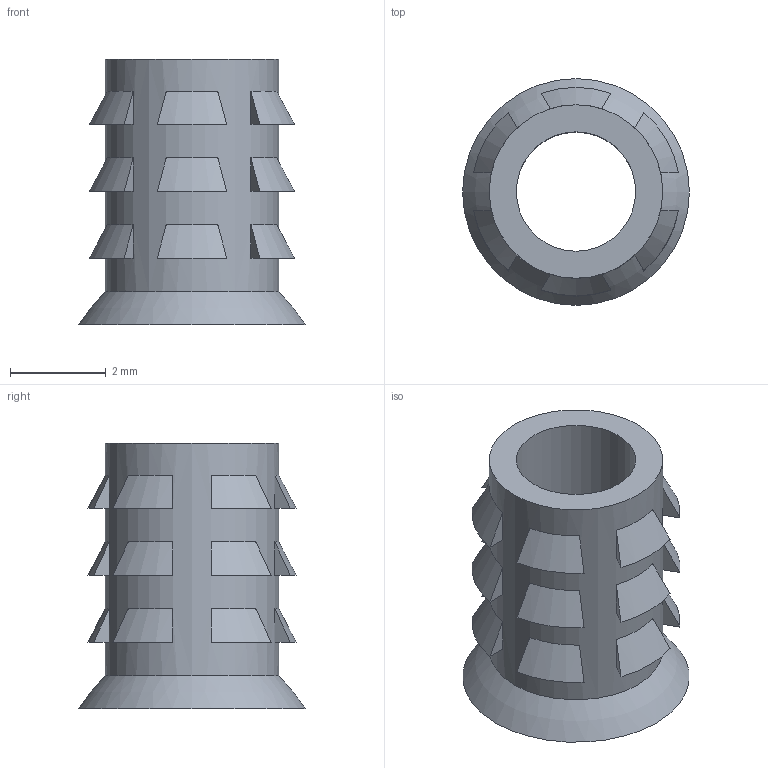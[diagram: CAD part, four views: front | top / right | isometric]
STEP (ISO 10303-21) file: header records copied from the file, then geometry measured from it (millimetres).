
FILE_DESCRIPTION (( 'STEP AP214' ), '1' );
FILE_NAME ('Insert M3.STEP', '2017-08-09T08:38:20', ( '微软用户' ), ( '微软中国' ), 'SwSTEP 2.0', 'SolidWorks 2015', '' );
FILE_SCHEMA (( 'AUTOMOTIVE_DESIGN' ));
Length unit declared in the file: millimetre
Products named in the file (1): Insert M3
Bounding box: 4.75 x 4.75 x 5.56 mm (x, y, z)
Volume: 35.6 mm3; surface area: 146.3 mm2
Topology: 1 solids, 1 shells, 78 faces, 172 edges, 114 vertices
Faces by surface type: plane 56, torus 19, cylinder 2, cone 1
Full cylindrical faces by diameter (mm): 2.5 x1, 3.632 x1
Entity records: 2238 total; most frequent: CARTESIAN_POINT 493, DIRECTION 350, ORIENTED_EDGE 336, EDGE_CURVE 168, AXIS2_PLACEMENT_3D 139, VERTEX_POINT 114, EDGE_LOOP 102, FACE_OUTER_BOUND 81
